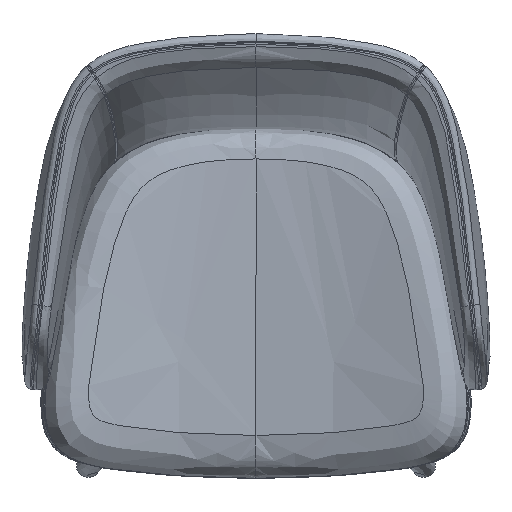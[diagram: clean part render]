
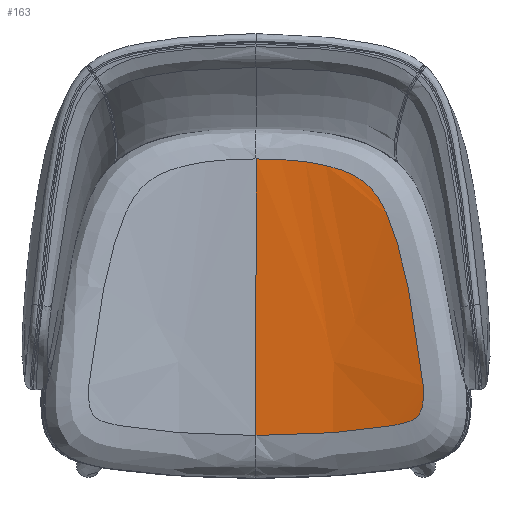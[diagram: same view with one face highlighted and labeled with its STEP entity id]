
A CAD part, top view. The second image highlights one B-rep face of the part: STEP entity #163.
In plain terms, the highlighted free-form (B-spline) face has degree [2, 1] with [3, 2] control points.
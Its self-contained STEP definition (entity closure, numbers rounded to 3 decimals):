
#163=ADVANCED_FACE('',(#283),#1361,.T.);
#283=FACE_OUTER_BOUND('',#403,.T.);
#403=EDGE_LOOP('',(#825,#826));
#825=ORIENTED_EDGE('',*,*,#1108,.T.);
#826=ORIENTED_EDGE('',*,*,#1107,.F.);
#1107=EDGE_CURVE('',#1323,#1324,#1690,.T.);
#1108=EDGE_CURVE('',#1323,#1324,#1691,.T.);
#1323=VERTEX_POINT('',#25295);
#1324=VERTEX_POINT('',#25296);
#1361=(
BOUNDED_SURFACE()
B_SPLINE_SURFACE(2,1,((#24385,#24386),(#24387,#24388),(#24389,#24390)),
 .UNSPECIFIED.,.F.,.F.,.F.)
B_SPLINE_SURFACE_WITH_KNOTS((3,3),(2,2),(0.,564.196),(0.,519.874),
 .UNSPECIFIED.)
GEOMETRIC_REPRESENTATION_ITEM()
RATIONAL_B_SPLINE_SURFACE(((1.,1.),(0.904,0.904),
(1.,1.)))
REPRESENTATION_ITEM('')
SURFACE()
);
#1690=B_SPLINE_CURVE_WITH_KNOTS('',1,(#25301,#25302),.UNSPECIFIED.,.F.,
 .F.,(2,2),(85.522,440.522),.UNSPECIFIED.);
#1691=B_SPLINE_CURVE_WITH_KNOTS('',3,(#25303,#25304,#25305,#25306,#25307,
#25308,#25309,#25310,#25311,#25312,#25313,#25314,#25315,#25316,#25317,#25318,
#25319,#25320,#25321,#25322,#25323,#25324,#25325,#25326,#25327,#25328,#25329,
#25330,#25331,#25332,#25333,#25334,#25335,#25336,#25337,#25338,#25339,#25340,
#25341,#25342,#25343,#25344,#25345,#25346,#25347,#25348,#25349,#25350,#25351,
#25352,#25353,#25354,#25355,#25356,#25357,#25358,#25359,#25360,#25361,#25362,
#25363,#25364,#25365,#25366,#25367),.UNSPECIFIED.,.F.,.F.,(4,2,2,2,2,1,
1,1,2,2,2,2,2,2,1,1,1,2,2,2,2,2,2,1,1,1,2,2,1,1,1,2,2,2,1,1,1,2,2,4),(0.,
104.587,156.88,183.027,196.1,202.637,
209.173,215.71,229.003,238.918,248.832,
258.747,268.662,278.577,283.534,288.491,
293.449,302.826,317.162,345.832,403.172,
460.512,489.182,503.517,517.852,532.187,
552.207,569.385,578.515,586.562,594.609,
602.656,618.75,634.843,642.89,650.937,
658.984,679.714,708.491,766.045),
 .UNSPECIFIED.);
#24385=CARTESIAN_POINT('',(-273.052,-291.373,521.171));
#24386=CARTESIAN_POINT('',(-273.052,228.502,521.171));
#24387=CARTESIAN_POINT('',(0.,-291.373,392.364));
#24388=CARTESIAN_POINT('',(0.,228.502,392.364));
#24389=CARTESIAN_POINT('',(273.052,-291.373,521.171));
#24390=CARTESIAN_POINT('',(273.052,228.502,521.171));
#25295=CARTESIAN_POINT('',(0.,-205.851,460.));
#25296=CARTESIAN_POINT('',(0.,149.149,460.));
#25301=CARTESIAN_POINT('',(0.,-205.851,460.));
#25302=CARTESIAN_POINT('',(0.,149.149,460.));
#25303=CARTESIAN_POINT('',(0.,-205.851,460.));
#25304=CARTESIAN_POINT('',(32.595,-205.851,459.998));
#25305=CARTESIAN_POINT('',(65.191,-204.707,462.498));
#25306=CARTESIAN_POINT('',(113.393,-201.245,469.916));
#25307=CARTESIAN_POINT('',(129.348,-199.803,472.998));
#25308=CARTESIAN_POINT('',(152.995,-196.948,478.504));
#25309=CARTESIAN_POINT('',(160.828,-195.874,480.485));
#25310=CARTESIAN_POINT('',(172.477,-193.946,483.666));
#25311=CARTESIAN_POINT('',(176.325,-193.264,484.756));
#25312=CARTESIAN_POINT('',(182.126,-192.091,486.459));
#25313=CARTESIAN_POINT('',(185.728,-191.337,487.529));
#25314=CARTESIAN_POINT('',(192.209,-189.573,489.538));
#25315=CARTESIAN_POINT('',(195.735,-188.386,490.661));
#25316=CARTESIAN_POINT('',(199.266,-186.96,491.807));
#25317=CARTESIAN_POINT('',(202.779,-184.998,492.972));
#25318=CARTESIAN_POINT('',(204.261,-184.016,493.469));
#25319=CARTESIAN_POINT('',(206.947,-181.74,494.381));
#25320=CARTESIAN_POINT('',(208.168,-180.437,494.8));
#25321=CARTESIAN_POINT('',(210.246,-177.534,495.519));
#25322=CARTESIAN_POINT('',(211.107,-175.946,495.819));
#25323=CARTESIAN_POINT('',(212.491,-172.616,496.305));
#25324=CARTESIAN_POINT('',(213.019,-170.876,496.491));
#25325=CARTESIAN_POINT('',(213.834,-167.346,496.779));
#25326=CARTESIAN_POINT('',(214.124,-165.534,496.883));
#25327=CARTESIAN_POINT('',(214.453,-162.865,496.999));
#25328=CARTESIAN_POINT('',(214.64,-160.854,497.066));
#25329=CARTESIAN_POINT('',(214.8,-158.871,497.123));
#25330=CARTESIAN_POINT('',(215.033,-151.876,497.206));
#25331=CARTESIAN_POINT('',(214.909,-147.514,497.162));
#25332=CARTESIAN_POINT('',(214.619,-139.821,497.058));
#25333=CARTESIAN_POINT('',(214.314,-135.233,496.95));
#25334=CARTESIAN_POINT('',(213.152,-121.424,496.538));
#25335=CARTESIAN_POINT('',(212.076,-112.257,496.158));
#25336=CARTESIAN_POINT('',(208.37,-84.822,494.865));
#25337=CARTESIAN_POINT('',(205.301,-66.627,493.811));
#25338=CARTESIAN_POINT('',(198.557,-30.368,491.57));
#25339=CARTESIAN_POINT('',(194.856,-12.302,490.369));
#25340=CARTESIAN_POINT('',(188.523,14.609,488.392));
#25341=CARTESIAN_POINT('',(186.28,23.534,487.704));
#25342=CARTESIAN_POINT('',(182.602,36.878,486.601));
#25343=CARTESIAN_POINT('',(180.108,45.581,485.86));
#25344=CARTESIAN_POINT('',(175.69,59.26,484.582));
#25345=CARTESIAN_POINT('',(171.082,71.736,483.283));
#25346=CARTESIAN_POINT('',(167.133,80.889,482.203));
#25347=CARTESIAN_POINT('',(162.426,90.325,480.95));
#25348=CARTESIAN_POINT('',(160.048,94.606,480.329));
#25349=CARTESIAN_POINT('',(155.992,100.878,479.3));
#25350=CARTESIAN_POINT('',(153.227,104.855,478.607));
#25351=CARTESIAN_POINT('',(148.585,110.435,477.481));
#25352=CARTESIAN_POINT('',(144.078,115.015,476.422));
#25353=CARTESIAN_POINT('',(140.78,117.901,475.673));
#25354=CARTESIAN_POINT('',(135.703,121.987,474.543));
#25355=CARTESIAN_POINT('',(132.099,124.439,473.77));
#25356=CARTESIAN_POINT('',(124.593,128.815,472.233));
#25357=CARTESIAN_POINT('',(120.672,130.726,471.466));
#25358=CARTESIAN_POINT('',(114.663,133.23,470.352));
#25359=CARTESIAN_POINT('',(110.528,134.808,469.607));
#25360=CARTESIAN_POINT('',(104.58,136.779,468.59));
#25361=CARTESIAN_POINT('',(93.571,139.98,466.83));
#25362=CARTESIAN_POINT('',(85.134,141.89,465.658));
#25363=CARTESIAN_POINT('',(70.3,144.746,463.813));
#25364=CARTESIAN_POINT('',(61.607,146.002,462.912));
#25365=CARTESIAN_POINT('',(35.337,148.719,460.734));
#25366=CARTESIAN_POINT('',(17.656,149.155,459.999));
#25367=CARTESIAN_POINT('',(0.,149.149,460.));
